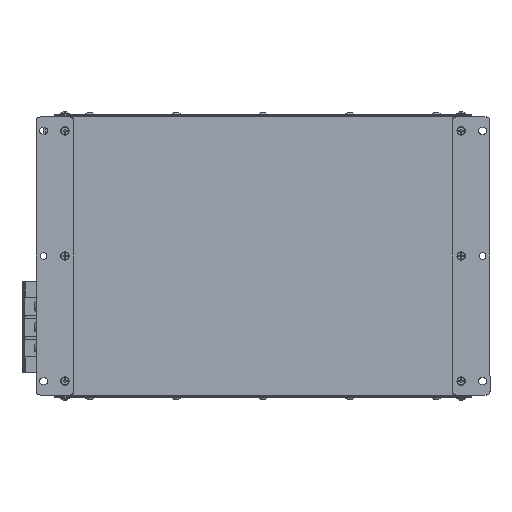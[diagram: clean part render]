
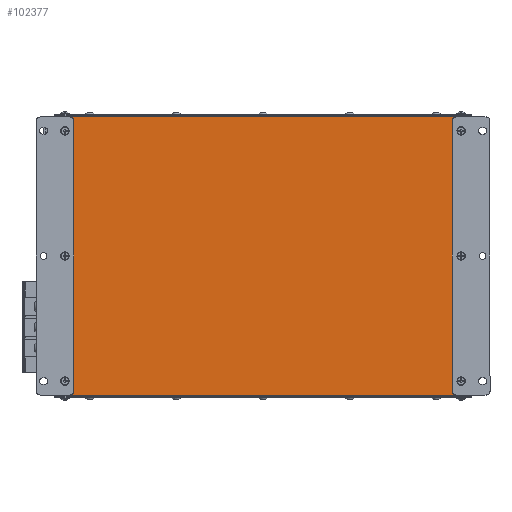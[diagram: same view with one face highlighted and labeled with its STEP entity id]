
A CAD part, front view. The second image highlights one B-rep face of the part: STEP entity #102377.
In plain terms, the highlighted planar face has unit normal (0, -1, 0).
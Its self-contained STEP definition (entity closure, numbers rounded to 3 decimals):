
#5263=PLANE('',#108606);
#8646=FACE_OUTER_BOUND('',#14370,.T.);
#14370=EDGE_LOOP('',(#68117,#68118,#68119,#68120,#68121,#68122,#68123,#68124,
#68125,#68126,#68127,#68128,#68129,#68130,#68131,#68132));
#20775=LINE('',#140450,#30070);
#20777=LINE('',#140454,#30072);
#21035=LINE('',#141384,#30330);
#21038=LINE('',#141407,#30333);
#21039=LINE('',#141409,#30334);
#21040=LINE('',#141411,#30335);
#21041=LINE('',#141415,#30336);
#21042=LINE('',#141419,#30337);
#21043=LINE('',#141421,#30338);
#21044=LINE('',#141422,#30339);
#21045=LINE('',#141424,#30340);
#21046=LINE('',#141428,#30341);
#30070=VECTOR('',#116718,10.);
#30072=VECTOR('',#116720,10.);
#30330=VECTOR('',#117622,10.);
#30333=VECTOR('',#117645,10.);
#30334=VECTOR('',#117646,10.);
#30335=VECTOR('',#117647,10.);
#30336=VECTOR('',#117650,10.);
#30337=VECTOR('',#117653,10.);
#30338=VECTOR('',#117654,10.);
#30339=VECTOR('',#117655,10.);
#30340=VECTOR('',#117656,10.);
#30341=VECTOR('',#117659,10.);
#39442=CIRCLE('',#108607,4.);
#39443=CIRCLE('',#108608,4.);
#39444=CIRCLE('',#108609,4.);
#39445=CIRCLE('',#108610,4.);
#42083=VERTEX_POINT('',#140447);
#42084=VERTEX_POINT('',#140449);
#42085=VERTEX_POINT('',#140451);
#42086=VERTEX_POINT('',#140453);
#42436=VERTEX_POINT('',#141383);
#42446=VERTEX_POINT('',#141406);
#42447=VERTEX_POINT('',#141408);
#42448=VERTEX_POINT('',#141410);
#42449=VERTEX_POINT('',#141412);
#42450=VERTEX_POINT('',#141414);
#42451=VERTEX_POINT('',#141416);
#42452=VERTEX_POINT('',#141418);
#42453=VERTEX_POINT('',#141420);
#42454=VERTEX_POINT('',#141423);
#42455=VERTEX_POINT('',#141425);
#42456=VERTEX_POINT('',#141427);
#52001=EDGE_CURVE('',#42083,#42084,#20775,.T.);
#52003=EDGE_CURVE('',#42085,#42086,#20777,.T.);
#52467=EDGE_CURVE('',#42436,#42083,#21035,.T.);
#52479=EDGE_CURVE('',#42446,#42084,#21038,.T.);
#52480=EDGE_CURVE('',#42447,#42436,#21039,.T.);
#52481=EDGE_CURVE('',#42447,#42448,#21040,.T.);
#52482=EDGE_CURVE('',#42448,#42449,#39442,.T.);
#52483=EDGE_CURVE('',#42449,#42450,#21041,.T.);
#52484=EDGE_CURVE('',#42450,#42451,#39443,.T.);
#52485=EDGE_CURVE('',#42451,#42452,#21042,.T.);
#52486=EDGE_CURVE('',#42453,#42452,#21043,.T.);
#52487=EDGE_CURVE('',#42086,#42453,#21044,.T.);
#52488=EDGE_CURVE('',#42085,#42454,#21045,.T.);
#52489=EDGE_CURVE('',#42454,#42455,#39444,.T.);
#52490=EDGE_CURVE('',#42455,#42456,#21046,.T.);
#52491=EDGE_CURVE('',#42456,#42446,#39445,.T.);
#68117=ORIENTED_EDGE('',*,*,#52479,.T.);
#68118=ORIENTED_EDGE('',*,*,#52001,.F.);
#68119=ORIENTED_EDGE('',*,*,#52467,.F.);
#68120=ORIENTED_EDGE('',*,*,#52480,.F.);
#68121=ORIENTED_EDGE('',*,*,#52481,.T.);
#68122=ORIENTED_EDGE('',*,*,#52482,.T.);
#68123=ORIENTED_EDGE('',*,*,#52483,.T.);
#68124=ORIENTED_EDGE('',*,*,#52484,.T.);
#68125=ORIENTED_EDGE('',*,*,#52485,.T.);
#68126=ORIENTED_EDGE('',*,*,#52486,.F.);
#68127=ORIENTED_EDGE('',*,*,#52487,.F.);
#68128=ORIENTED_EDGE('',*,*,#52003,.F.);
#68129=ORIENTED_EDGE('',*,*,#52488,.T.);
#68130=ORIENTED_EDGE('',*,*,#52489,.T.);
#68131=ORIENTED_EDGE('',*,*,#52490,.T.);
#68132=ORIENTED_EDGE('',*,*,#52491,.T.);
#102377=ADVANCED_FACE('',(#8646),#5263,.F.);
#108606=AXIS2_PLACEMENT_3D('',#141405,#117643,#117644);
#108607=AXIS2_PLACEMENT_3D('',#141413,#117648,#117649);
#108608=AXIS2_PLACEMENT_3D('',#141417,#117651,#117652);
#108609=AXIS2_PLACEMENT_3D('',#141426,#117657,#117658);
#108610=AXIS2_PLACEMENT_3D('',#141429,#117660,#117661);
#116718=DIRECTION('',(0.,0.,-1.));
#116720=DIRECTION('',(0.,0.,-1.));
#117622=DIRECTION('',(1.,0.,0.));
#117643=DIRECTION('center_axis',(0.,1.,0.));
#117644=DIRECTION('ref_axis',(0.,0.,1.));
#117645=DIRECTION('',(1.,0.,0.));
#117646=DIRECTION('',(0.,0.,1.));
#117647=DIRECTION('',(1.,0.,0.));
#117648=DIRECTION('center_axis',(0.,1.,0.));
#117649=DIRECTION('ref_axis',(1.,0.,0.));
#117650=DIRECTION('',(0.,0.,-1.));
#117651=DIRECTION('center_axis',(0.,1.,0.));
#117652=DIRECTION('ref_axis',(0.,0.,-1.));
#117653=DIRECTION('',(-1.,0.,0.));
#117654=DIRECTION('',(0.,0.,1.));
#117655=DIRECTION('',(-1.,0.,0.));
#117656=DIRECTION('',(-1.,0.,0.));
#117657=DIRECTION('center_axis',(0.,1.,0.));
#117658=DIRECTION('ref_axis',(-1.,0.,0.));
#117659=DIRECTION('',(0.,0.,1.));
#117660=DIRECTION('center_axis',(0.,1.,0.));
#117661=DIRECTION('ref_axis',(0.,0.,1.));
#140447=CARTESIAN_POINT('',(39.991,0.,262.503));
#140449=CARTESIAN_POINT('',(39.991,0.,261.903));
#140450=CARTESIAN_POINT('',(39.991,0.,262.503));
#140451=CARTESIAN_POINT('',(39.991,0.,-18.097));
#140453=CARTESIAN_POINT('',(39.991,0.,-18.697));
#140454=CARTESIAN_POINT('',(39.991,0.,262.503));
#141383=CARTESIAN_POINT('',(-379.009,0.,262.503));
#141384=CARTESIAN_POINT('',(-379.009,0.,262.503));
#141405=CARTESIAN_POINT('Origin',(-169.509,0.,121.903));
#141406=CARTESIAN_POINT('',(24.991,0.,261.903));
#141407=CARTESIAN_POINT('',(-57.259,0.,261.903));
#141408=CARTESIAN_POINT('',(-379.009,0.,261.903));
#141409=CARTESIAN_POINT('',(-379.009,0.,-18.697));
#141410=CARTESIAN_POINT('',(-364.009,0.,261.903));
#141411=CARTESIAN_POINT('',(-266.759,0.,261.903));
#141412=CARTESIAN_POINT('',(-360.009,0.,257.903));
#141413=CARTESIAN_POINT('Origin',(-364.009,0.,257.903));
#141414=CARTESIAN_POINT('',(-360.009,0.,-14.097));
#141415=CARTESIAN_POINT('',(-360.009,0.,53.903));
#141416=CARTESIAN_POINT('',(-364.009,0.,-18.097));
#141417=CARTESIAN_POINT('Origin',(-364.009,0.,-14.097));
#141418=CARTESIAN_POINT('',(-379.009,0.,-18.097));
#141419=CARTESIAN_POINT('',(-281.759,0.,-18.097));
#141420=CARTESIAN_POINT('',(-379.009,0.,-18.697));
#141421=CARTESIAN_POINT('',(-379.009,0.,-18.697));
#141422=CARTESIAN_POINT('',(39.991,0.,-18.697));
#141423=CARTESIAN_POINT('',(24.991,0.,-18.097));
#141424=CARTESIAN_POINT('',(-72.259,0.,-18.097));
#141425=CARTESIAN_POINT('',(20.991,0.,-14.097));
#141426=CARTESIAN_POINT('Origin',(24.991,0.,-14.097));
#141427=CARTESIAN_POINT('',(20.991,0.,257.903));
#141428=CARTESIAN_POINT('',(20.991,0.,189.903));
#141429=CARTESIAN_POINT('Origin',(24.991,0.,257.903));
